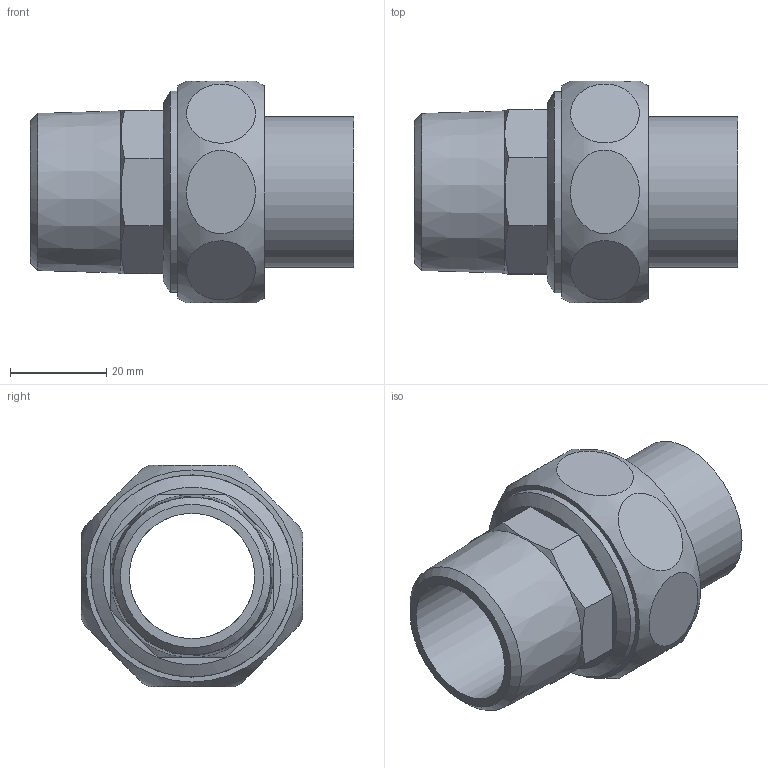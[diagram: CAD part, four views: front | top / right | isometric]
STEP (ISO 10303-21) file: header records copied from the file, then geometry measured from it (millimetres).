
FILE_DESCRIPTION((''),'2;1');
FILE_NAME('\\LG50001\SANHA_Legnica\Engineering\Public\RYSUNKI\SANHA POLSKA\4333g\step\14333g_28-1(1).stp','2014-02-18T07:14:03',('haldrzynski'),(''),'Autodesk Inventor 2009','Autodesk Inventor 2009','');
FILE_SCHEMA(('AUTOMOTIVE_DESIGN { 1 0 10303 214 1 1 1 1 }'));
Length unit declared in the file: millimetre
Products named in the file (5): 14333g_28-1(1); 14374_114_338(1); 14376G_1-114(2); 14372_28-114(1); 1DCU114
Assembly tree (4 placements, depth 2):
  14333g_28-1(1)
    14374_114_338(1)
    14376G_1-114(2)
    14372_28-114(1)
    1DCU114
Bounding box: 67 x 46 x 46 mm (x, y, z)
Volume: 36578.5 mm3; surface area: 22633.1 mm2
Topology: 4 solids, 4 shells, 60 faces, 112 edges, 70 vertices
Faces by surface type: plane 35, cylinder 18, cone 6, bspline 1
Full cylindrical faces by diameter (mm): 26 x2, 27 x1, 28 x1, 31.2 x1, 33.8 x1, 38 x1, 38.5 x1, 38.952 x1, 41.91 x1
Entity records: 2875 total; most frequent: CARTESIAN_POINT 1589, DIRECTION 262, ORIENTED_EDGE 182, AXIS2_PLACEMENT_3D 119, EDGE_LOOP 96, EDGE_CURVE 91, VERTEX_POINT 67, FACE_OUTER_BOUND 60
